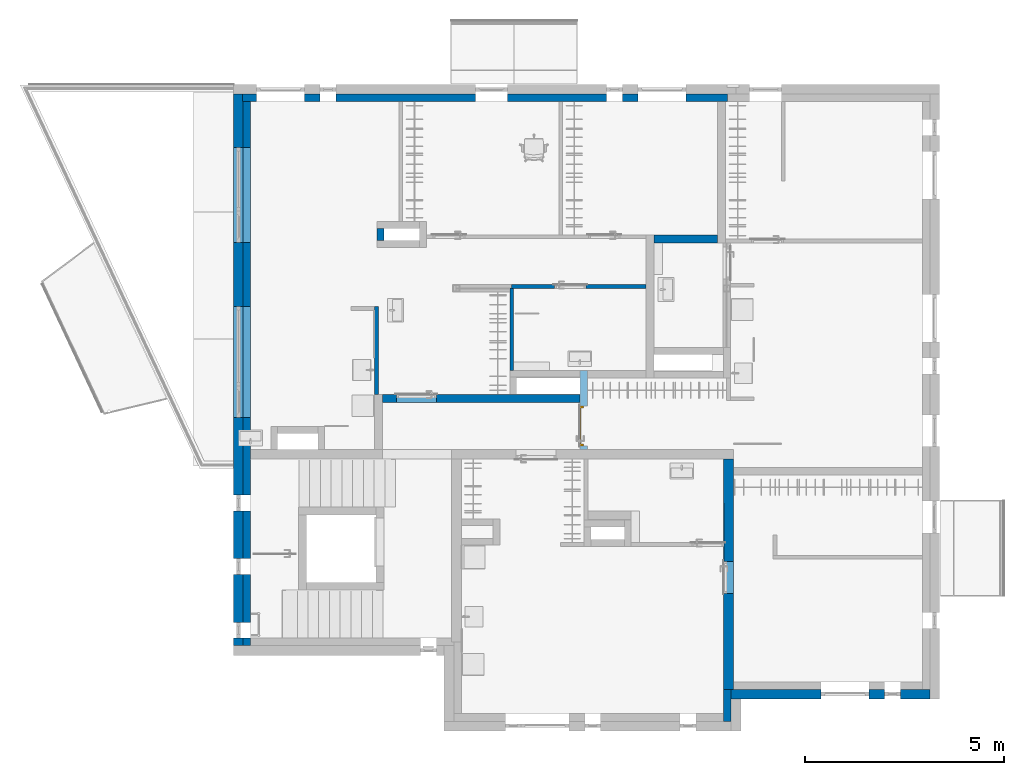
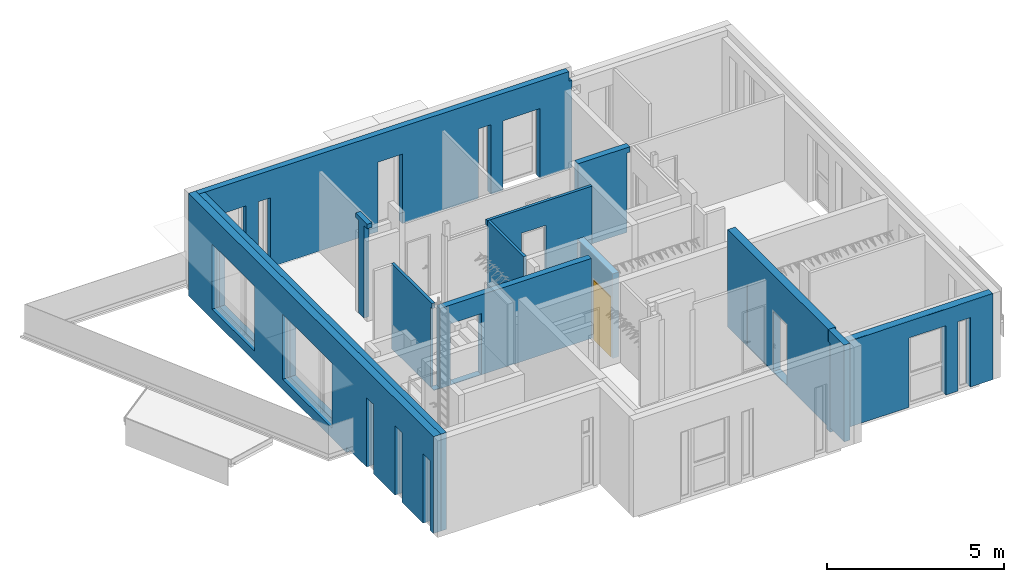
# One storey, part 9 of 42: 12 walls, 1 door, 1 opening, plus 1 element that does not belong to this part.
"""IFC2X3 building model written with IfcOpenShell, lengths in millimetres."""

from ifc_helpers import new_model, entity, si_unit, converted_unit, direction, frame, frame_2d, origin, place, context, subcontext, project, spatial, rectangle, extrude, faceted_brep, source, transform, mapped, material, layer, layer_set, layer_usage, type_object, type_shapes, element, fill, save


model = new_model("IFC2X3")

# Units and contexts
model_context = context("Model", 3, precision=0.01, world=origin(), true_north=direction((6.123233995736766e-17, 1.0)))
plan_context = context("Plan", 3, precision=0.01, world=origin(), true_north=direction((6.123233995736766e-17, 1.0)))
body_context = subcontext(model_context, "Body", "Model", "MODEL_VIEW")
ifc_project = project(units=[si_unit("LENGTHUNIT", "METRE", prefix="MILLI"), converted_unit("PLANEANGLEUNIT", "DEGREE", entity("IfcPlaneAngleMeasure", 0.017453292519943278), si_unit("PLANEANGLEUNIT", "RADIAN"), dimensions=[0, 0, 0, 0, 0, 0, 0]), si_unit("AREAUNIT", "SQUARE_METRE")], contexts=[model_context, plan_context])

# Site, building, storey
site_placement = place(None, origin())
site = spatial("IfcSite", under=ifc_project, at=site_placement, Name="Default", CompositionType="ELEMENT")
building_placement = place(site_placement, origin())
building = spatial("IfcBuilding", under=site, at=building_placement, CompositionType="ELEMENT")
storey_placement = place(building_placement, frame((0.0, 0.0, 9465.000076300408)))
storey = spatial("IfcBuildingStorey", under=building, at=storey_placement, Name="4K", CompositionType="ELEMENT", Elevation=9465.000076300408)

# Walls
ifc_material_1 = material(Name="_K. Väisviimistlus. Krohv. Valge")
ifc_layer_1 = layer(ifc_material_1, 5.0)
ifc_material_2 = material(Name="_K. Müüritis. Väikeplokk. Betoon-õõnesplokk")
ifc_layer_2 = layer(ifc_material_2, 190.00000000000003)
ifc_layer_3 = layer(ifc_material_1, 5.0)
ifc_layer_set_1 = layer_set([ifc_layer_1, ifc_layer_2, ifc_layer_3], Name="Basic Wall:SS-01. 190")
wall_type_1 = type_object("IfcWallType", Name="Basic Wall:SS-01. 190", PredefinedType="STANDARD", material=ifc_layer_set_1)
wall_1_placement = place(storey_placement, frame((-100.0, 1710.0, 0.0), z_axis=(0.0, 0.0, 1.0), x_axis=(0.0, 1.0, 0.0)))
element("IfcWall", 1, at=wall_1_placement, inside=storey, type_object=wall_type_1, Name="Basic Wall:SS-01. 190", ObjectType="Basic Wall:SS-01. 190", context=body_context, shape_type="Brep", body=[
    faceted_brep([(13690.0, -100.0, 3346.0), (190.0, -100.0, 3346.0), (0.0, -100.0, 3346.0), (0.0, -100.0, 0.0), (190.0, -100.0, 0.0), (190.0, -100.0, 2400.0), (590.0, -100.0, 2400.0), (590.0, -100.0, 0.0), (1790.0, -100.0, 0.0), (1790.0, -100.0, 2400.0), (2190.0, -100.0, 2400.0), (2190.0, -100.0, 0.0), (3390.0, -100.0, 0.0), (3390.0, -100.0, 2400.0), (3790.0, -100.0, 2400.0), (3790.0, -100.0, 0.0), (4694.999959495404, -100.0, 0.0), (13690.0, -100.0, 0.0), (8540.0, -100.0, 2400.0), (8540.0, -100.0, 150.0), (5740.0, -100.0, 150.0), (5740.0, -100.0, 2400.0), (12540.0, -100.0, 2400.0), (12540.0, -100.0, 150.0), (10140.0, -100.0, 150.0), (10140.0, -100.0, 2400.0), (0.0, 90.0, 0.0), (190.0, 90.0, 0.0), (13690.0, 90.0, 3346.0), (0.0, 90.0, 3346.0), (13690.0, 90.0, 0.0), (3790.0, 90.0, 0.0), (3790.0, 90.0, 2400.0), (3390.0, 90.0, 2400.0), (3390.0, 90.0, 0.0), (2190.0, 90.0, 0.0), (2190.0, 90.0, 2400.0), (1790.0, 90.0, 2400.0), (1790.0, 90.0, 0.0), (590.0, 90.0, 0.0), (590.0, 90.0, 2400.0), (190.0, 90.0, 2400.0), (8540.0, 90.0, 150.0), (8540.0, 90.0, 2400.0), (5740.0, 90.0, 2400.0), (5740.0, 90.0, 150.0), (12540.0, 90.0, 150.0), (12540.0, 90.0, 2400.0), (10140.0, 90.0, 2400.0), (10140.0, 90.0, 150.0)], [[[0, 1, 2, 3, 4, 5, 6, 7, 8, 9, 10, 11, 12, 13, 14, 15, 16, 17], [18, 19, 20, 21], [22, 23, 24, 25]], [[4, 3, 26, 27]], [[2, 1, 0, 28, 29]], [[0, 17, 30, 28]], [[30, 31, 32, 33, 34, 35, 36, 37, 38, 39, 40, 41, 27, 26, 29, 28], [42, 43, 44, 45], [46, 47, 48, 49]], [[7, 6, 40, 39]], [[6, 5, 41, 40]], [[5, 4, 27, 41]], [[11, 10, 36, 35]], [[10, 9, 37, 36]], [[9, 8, 38, 37]], [[15, 14, 32, 31]], [[14, 13, 33, 32]], [[13, 12, 34, 33]], [[19, 18, 43, 42]], [[23, 22, 47, 46]], [[22, 25, 48, 47]], [[25, 24, 49, 48]], [[24, 23, 46, 49]], [[18, 21, 44, 43]], [[21, 20, 45, 44]], [[20, 19, 42, 45]], [[3, 2, 29, 26]], [[8, 7, 39, 38]], [[12, 11, 35, 34]], [[17, 16, 15, 31, 30]]]),
])
wall_2_placement = place(storey_placement, frame((-200.0, 15500.0, 0.0)))
element("IfcWall", 2, at=wall_2_placement, inside=storey, type_object=wall_type_1, Name="Basic Wall:SS-01. 190", ObjectType="Basic Wall:SS-01. 190", context=body_context, shape_type="Brep", body=[
    faceted_brep([(12100.0, -100.0, 3346.0), (11550.0, -100.0, 3346.0), (11150.0, -100.0, 3346.0), (9950.0, -100.0, 3346.0), (9150.0, -100.0, 3346.0), (8430.0, -100.0, 3346.0), (6430.0, -100.0, 3346.0), (4825.0, -100.0, 3346.0), (4425.0, -100.0, 3346.0), (2750.0, -100.0, 3346.0), (2350.0, -100.0, 3346.0), (200.0, -100.0, 3346.0), (10.0, -100.0, 3346.0), (0.0, -100.0, 3346.0), (0.0, -100.0, 0.0), (10.0, -100.0, 0.0), (200.0, -100.0, 0.0), (350.0, -100.0, 0.0), (350.0, -100.0, 2400.0), (1550.0, -100.0, 2400.0), (1550.0, -100.0, 0.0), (1950.0, -100.0, 0.0), (1950.0, -100.0, 2400.0), (2350.0, -100.0, 2400.0), (2350.0, -100.0, 0.0), (5860.0, -100.0, 0.0), (5860.0, -100.0, 2400.0), (6660.0, -100.0, 2400.0), (6660.0, -100.0, 0.0), (9150.0, -100.0, 0.0), (9150.0, -100.0, 2400.0), (9550.0, -100.0, 2400.0), (9550.0, -100.0, 0.0), (9950.0, -100.0, 0.0), (9950.0, -100.0, 2400.0), (11150.0, -100.0, 2400.0), (11150.0, -100.0, 0.0), (12200.0, -100.0, 0.0), (12200.0, -100.0, 2480.0), (12180.0, -100.0, 2480.0), (12180.0, -100.0, 2780.0), (12200.0, -100.0, 2780.0), (12200.0, -100.0, 2970.000068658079), (12200.0, -100.0, 3014.999877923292), (12100.0, -100.0, 3014.999877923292), (0.0, 90.0, 0.0), (350.0, 90.0, 0.0), (12100.0, 90.0, 3346.0), (0.0, 90.0, 3346.0), (12200.0, 90.0, 0.0), (11150.0, 90.0, 0.0), (11150.0, 90.0, 2400.0), (9950.0, 90.0, 2400.0), (9950.0, 90.0, 0.0), (9550.0, 90.0, 0.0), (9550.0, 90.0, 2400.0), (9150.0, 90.0, 2400.0), (9150.0, 90.0, 0.0), (6660.0, 90.0, 0.0), (6660.0, 90.0, 2400.0), (5860.0, 90.0, 2400.0), (5860.0, 90.0, 0.0), (2350.0, 90.0, 0.0), (2350.0, 90.0, 2400.0), (1950.0, 90.0, 2400.0), (1950.0, 90.0, 0.0), (1550.0, 90.0, 0.0), (1550.0, 90.0, 2400.0), (350.0, 90.0, 2400.0), (12100.0, 90.0, 3014.999877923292), (12200.0, 90.0, 3014.999877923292), (12200.0, 90.0, 2970.000068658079), (12200.0, 90.0, 2780.0), (12180.0, 90.0, 2780.0), (12180.0, 90.0, 2480.0), (12200.0, 90.0, 2480.0)], [[[0, 1, 2, 3, 4, 5, 6, 7, 8, 9, 10, 11, 12, 13, 14, 15, 16, 17, 18, 19, 20, 21, 22, 23, 24, 25, 26, 27, 28, 29, 30, 31, 32, 33, 34, 35, 36, 37, 38, 39, 40, 41, 42, 43, 44]], [[17, 16, 15, 14, 45, 46]], [[13, 12, 11, 10, 9, 8, 7, 6, 5, 4, 3, 2, 1, 0, 47, 48]], [[14, 13, 48, 45]], [[49, 50, 51, 52, 53, 54, 55, 56, 57, 58, 59, 60, 61, 62, 63, 64, 65, 66, 67, 68, 46, 45, 48, 47, 69, 70, 71, 72, 73, 74, 75]], [[20, 19, 67, 66]], [[19, 18, 68, 67]], [[18, 17, 46, 68]], [[24, 23, 63, 62]], [[23, 22, 64, 63]], [[22, 21, 65, 64]], [[28, 27, 59, 58]], [[27, 26, 60, 59]], [[26, 25, 61, 60]], [[32, 31, 55, 54]], [[31, 30, 56, 55]], [[30, 29, 57, 56]], [[36, 35, 51, 50]], [[35, 34, 52, 51]], [[34, 33, 53, 52]], [[39, 38, 75, 74]], [[41, 40, 73, 72]], [[40, 39, 74, 73]], [[38, 37, 49, 75]], [[44, 43, 70, 69]], [[0, 44, 69, 47]], [[43, 42, 41, 72, 71, 70]], [[21, 20, 66, 65]], [[25, 24, 62, 61]], [[29, 28, 58, 57]], [[33, 32, 54, 53]], [[37, 36, 50, 49]]]),
])
wall_3_placement = place(storey_placement, frame((3120.0, 7934.999959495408, -20.0)))
element("IfcWall", 3, at=wall_3_placement, inside=storey, type_object=wall_type_1, Name="Basic Wall:SS-01. 190", ObjectType="Basic Wall:SS-01. 190", context=body_context, shape_type="Brep", body=[
    faceted_brep([(5160.0, -100.0, 2769.9998779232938), (200.0, -100.0, 2769.9998779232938), (200.0, -100.0, 20.0), (0.0, -100.0, 20.0), (0.0, -100.0, 0.0), (5160.0, -100.0, 0.0), (5160.0, -100.0, 19.99992369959), (1550.0, -100.0, 2120.0), (1550.0, -100.0, 20.0), (550.0, -100.0, 20.0), (550.0, -100.0, 2120.0), (200.0, 100.0, 2769.9998779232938), (5160.0, 100.0, 2769.9998779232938), (5160.0, 100.0, 0.0), (92.0, 100.0, 0.0), (0.0, 100.0, 0.0), (0.0, 100.0, 20.0), (200.0, 100.0, 20.0), (1550.0, 100.0, 20.0), (1550.0, 100.0, 2120.0), (550.0, 100.0, 2120.0), (550.0, 100.0, 20.0), (200.0, 0.0, 2769.9998779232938)], [[[0, 1, 2, 3, 4, 5, 6], [7, 8, 9, 10]], [[11, 12, 13, 14, 15, 16, 17], [18, 19, 20, 21]], [[1, 0, 12, 11, 22]], [[3, 16, 15, 4]], [[2, 1, 22, 11, 17]], [[8, 7, 19, 18]], [[9, 8, 18, 21]], [[10, 9, 21, 20]], [[7, 10, 20, 19]], [[17, 16, 3, 2]], [[12, 0, 6, 5, 13]], [[5, 4, 15, 14, 13]]]),
])

# Wall, opening, door
ifc_layer_usage = layer_usage(ifc_layer_set_1, "AXIS2", "NEGATIVE", 100.00000000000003)
wall_4_placement = place(storey_placement, frame((8380.0, 6644.999959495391, 0.0), z_axis=(0.0, 0.0, 1.0), x_axis=(0.0, 1.0, 0.0)))
wall_4 = element("IfcWallStandardCase", 4, at=wall_4_placement, inside=storey, type_object=wall_type_1, material=ifc_layer_usage, Name="Basic Wall:SS-01. 190", ObjectType="Basic Wall:SS-01. 190", context=body_context, shape_type="SweptSolid", body=[
    extrude(rectangle(XDim=1995.0000405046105, YDim=200.0, at=frame_2d((997.5000202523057, -3.623767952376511e-13), x_axis=(1.0, 0.0))), origin(), (0.0, 0.0, 1.0), 2925.999923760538),
])
opening_placement = place(wall_4_placement, frame((-6644.999959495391, 8380.0, 0.0), z_axis=(0.0, 0.0, 1.0), x_axis=(0.0, -1.0, 0.0)))
opening = element("IfcOpeningElement", 5, at=opening_placement, cuts=wall_4, Name="Basic Wall:SS-01. 190", ObjectType="Opening", context=body_context, shape_type="Brep", body=[
    faceted_brep([(9372.0, 7739.999959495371, 2100.0), (9372.0, 6739.999959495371, 2100.0), (9372.0, 6739.999959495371, 0.0), (9372.0, 7739.999959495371, 0.0), (7280.0, 7739.999959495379, 0.0), (7280.0, 7739.9999594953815, 2100.0), (7280.0, 6739.999959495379, 0.0), (7280.0, 6739.999959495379, 2100.0)], [[[0, 1, 2, 3]], [[3, 4, 5, 0]], [[2, 6, 4, 3]], [[1, 7, 6, 2]], [[5, 7, 1, 0]], [[7, 5, 4, 6]]]),
])
ifc_material_3 = material(Name="_K. Puit. Peitsitud ja lakitud")
door_style = type_object("IfcDoorStyle", Name="HR_Generic_Hinged_Single:Default. Manteluks lävepakuta. 1000 x 2100 mm. Left", ConstructionType="NOTDEFINED", OperationType="NOTDEFINED", ParameterTakesPrecedence=False, Sizeable=False, material=ifc_material_3)
shared_shape = source(origin(), body_context, "Body", "Brep", [
    faceted_brep([(37.0, -1030.0, 2060.0), (37.0, -1030.0, 10.0), (963.0, -1030.0, 10.0), (963.0, -1030.0, 2060.0), (27.0, -990.0, 10.0), (27.0, -990.0, 2070.0), (973.0, -990.0, 2070.0), (973.0, -990.0, 10.0), (37.0, -1000.0, 2060.0), (37.0, -1000.0, 10.0), (27.0, -1000.0, 10.0), (973.0, -1000.0, 10.0), (963.0, -1000.0, 10.0), (963.0, -1000.0, 2060.0), (27.0, -1000.0, 2070.0), (973.0, -1000.0, 2070.0)], [[[0, 1, 2, 3]], [[4, 5, 6, 7]], [[1, 0, 8, 9]], [[2, 1, 9, 10, 4, 7, 11, 12]], [[3, 2, 12, 13]], [[0, 3, 13, 8]], [[14, 10, 9, 8, 13, 12, 11, 15]], [[6, 5, 14, 15]], [[7, 6, 15, 11]], [[5, 4, 10, 14]]]),
    faceted_brep([(1000.0, -1092.0, 0.0), (950.0, -1092.0, 0.0), (950.0, -1030.0, 0.0), (965.0, -1030.0, 0.0), (965.0, -1000.0, 0.0), (1000.0, -1000.0, 0.0), (1000.0, -1092.0, 2100.0), (0.0, -1092.0, 2100.0), (0.0, -1092.0, 0.0), (50.0, -1092.0, 0.0), (50.0, -1092.0, 2050.0), (950.0, -1092.0, 2050.0), (950.0, -1030.0, 2050.0), (35.0, -1030.0, 2065.0), (965.0, -1030.0, 2065.0), (50.0, -1030.0, 2050.0), (50.0, -1030.0, 0.0), (35.0, -1030.0, 0.0), (965.0, -1000.0, 2065.0), (0.0, -1000.0, 0.0), (0.0, -1000.0, 2100.0), (1000.0, -1000.0, 2100.0), (35.0, -1000.0, 2065.0), (35.0, -1000.0, 0.0)], [[[0, 1, 2, 3, 4, 5]], [[1, 0, 6, 7, 8, 9, 10, 11]], [[1, 11, 12, 2]], [[13, 14, 3, 2, 12, 15, 16, 17]], [[3, 14, 18, 4]], [[19, 20, 21, 5, 4, 18, 22, 23]], [[0, 5, 21, 6]], [[8, 19, 23, 17, 16, 9]], [[19, 8, 7, 20]], [[13, 17, 23, 22]], [[10, 9, 16, 15]], [[7, 6, 21, 20]], [[11, 10, 15, 12]], [[14, 13, 22, 18]]]),
])
type_shapes(door_style, [shared_shape])
door_placement = place(opening_placement, frame((7280.0, 6739.999959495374, 0.0), z_axis=(0.0, 0.0, 1.0), x_axis=(0.0, 1.0, 0.0)))
door = element("IfcDoor", 6, at=door_placement, inside=storey, type_object=door_style, material=ifc_material_3, Name="HR_Generic_Hinged_Single:Default. Manteluks lävepakuta. 1000 x 2100 mm. Left", ObjectType="HR_Generic_Hinged_Single:Default. Manteluks lävepakuta. 1000 x 2100 mm. Left", OverallHeight=2130.000000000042, OverallWidth=1060.0000000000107, context=body_context, shape_type="MappedRepresentation", body=[
    mapped(shared_shape, transform((0.0, 0.0, 0.0), scale=1.0)),
])
fill(opening, door)

# Walls
wall_5_placement = place(storey_placement, frame((10150.0, 11946.0, 0.0)))
element("IfcWall", 7, at=wall_5_placement, inside=storey, type_object=wall_type_1, Name="Basic Wall:SS-01. 190", ObjectType="Basic Wall:SS-01. 190", context=body_context, shape_type="Brep", body=[
    faceted_brep([(0.0, -100.0, 2925.999923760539), (0.0, -100.0, 0.0), (1600.0, -100.0, 0.0), (1600.0, -100.0, 2739.999877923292), (1700.0, -100.0, 2739.999877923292), (1700.0, -100.0, 2925.999923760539), (0.0, 100.0, 0.0), (0.0, 100.0, 2925.999923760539), (1700.0, 100.0, 2925.999923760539), (1700.0, 100.0, 2739.999877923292), (1600.0, 100.0, 2739.999877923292), (1600.0, 100.0, 0.0), (1700.0, -8.0, 2925.999923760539), (1700.0, -8.0, 2739.999877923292)], [[[0, 1, 2, 3, 4, 5]], [[6, 7, 8, 9, 10, 11]], [[2, 1, 6, 11]], [[0, 5, 12, 8, 7]], [[0, 7, 6, 1]], [[5, 4, 13, 9, 8, 12]], [[3, 2, 11, 10]], [[9, 13, 4, 3, 10]]]),
])
ifc_layer_4 = layer(ifc_material_2, 190.00000000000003)
ifc_layer_set_2 = layer_set([ifc_layer_4], Name="Basic Wall:Columbia 190mm")
wall_type_2 = type_object("IfcWallType", Name="Basic Wall:Columbia 190mm", PredefinedType="STANDARD", material=ifc_layer_set_2)
wall_6_placement = place(storey_placement, frame((11995.0, 705.0, 0.0), z_axis=(0.0, 0.0, 1.0), x_axis=(0.0, -1.0, 0.0)))
element("IfcWall", 8, at=wall_6_placement, inside=storey, type_object=wall_type_2, Name="Basic Wall:Columbia 190mm", ObjectType="Basic Wall:Columbia 190mm", context=body_context, shape_type="Brep", body=[
    faceted_brep([(95.0, -95.0, 0.0), (705.0, -95.0, 0.0), (895.0, -95.0, 0.0), (895.0, -95.0, 3346.0), (705.0, -95.0, 3346.0), (0.0, -95.0, 3346.0), (0.0, -95.0, 2925.999923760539), (95.0, -95.0, 2925.999923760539), (95.0, 95.0, 0.0), (95.0, 95.0, 2925.999923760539), (0.0, 95.0, 2925.999923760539), (0.0, 95.0, 3346.0), (895.0, 95.0, 3346.0), (895.0, 95.0, 0.0), (335.0, 95.0, 0.0)], [[[0, 1, 2, 3, 4, 5, 6, 7]], [[8, 9, 10, 11, 12, 13, 14]], [[2, 1, 0, 8, 14, 13]], [[5, 4, 3, 12, 11]], [[2, 13, 12, 3]], [[6, 5, 11, 10]], [[6, 10, 9, 7]], [[0, 7, 9, 8]]]),
])
ifc_layer_5 = layer(ifc_material_1, 5.0)
ifc_layer_6 = layer(ifc_material_2, 240.0)
ifc_layer_7 = layer(ifc_material_1, 5.0)
ifc_layer_set_3 = layer_set([ifc_layer_5, ifc_layer_6, ifc_layer_7], Name="Basic Wall:SS-01.240")
wall_type_3 = type_object("IfcWallType", Name="Basic Wall:SS-01.240", PredefinedType="STANDARD", material=ifc_layer_set_3)
wall_7_placement = place(storey_placement, frame((12019.993534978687, 610.0, -155.0), z_axis=(0.0, 0.0, 1.0), x_axis=(0.0, 1.0, 0.0)))
element("IfcWall", 9, at=wall_7_placement, inside=storey, type_object=wall_type_3, Name="Basic Wall:SS-01.240", ObjectType="Basic Wall:SS-01.240", context=body_context, shape_type="Brep", body=[
    faceted_brep([(3220.0, -125.0, 2255.0), (3220.0, -125.0, 155.0), (2420.0, -125.0, 155.0), (2420.0, -125.0, 2255.0), (5794.99995949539, -125.0, 3501.0), (5540.0, -125.0, 3501.0), (4740.0, -125.0, 3501.0), (2890.0, -125.0, 3501.0), (1290.0, -125.0, 3501.0), (95.0, -125.0, 3501.0), (95.0, -125.0, 3130.000068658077), (95.0, -125.0, 3080.9999237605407), (0.0, -125.0, 3080.9999237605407), (0.0, -125.0, 154.99992369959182), (0.0, -125.0, 0.0), (190.0, -125.0, 0.0), (190.0, -125.0, 135.0), (5794.99995949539, -125.0, 135.0), (5794.99995949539, -125.0, 2904.999923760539), (5794.99995949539, -125.0, 3130.000068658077), (95.0, 125.0, 3501.0), (5794.999959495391, 125.0, 3501.0), (5794.999959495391, 125.0, 135.0), (3692.0, 125.0, 135.0), (3600.0, 125.0, 135.0), (0.0, 125.0, 135.0), (0.0, 125.0, 3080.9999237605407), (95.0, 125.0, 3080.9999237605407), (2420.0, 125.0, 2255.0), (2420.0, 125.0, 155.0), (3600.0, 125.0, 155.0), (3692.0, 125.0, 155.0), (4692.0, 125.0, 155.0), (4692.0, 125.0, 2255.0), (3692.0, 125.0, 2255.0), (3600.0, 125.0, 2255.0), (0.0, 119.99353497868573, 0.0), (190.0, 119.99353497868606, 0.0), (5794.99995949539, -70.00646502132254, 3501.0), (5794.999959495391, 119.99353497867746, 3501.0), (95.0, 119.9935349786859, 3501.0), (95.0, -70.0064650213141, 3501.0), (3220.0, 115.0, 2255.0), (3220.0, 115.0, 155.0), (4692.0, 115.0, 2255.0), (4692.0, 115.0, 155.0), (190.0, 119.99353497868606, 135.0), (0.0, 119.99353497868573, 135.0), (95.0, 119.9935349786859, 3080.9999237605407), (95.0, -70.0064650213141, 3080.9999237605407), (0.0, 119.99353497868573, 3080.9999237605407), (0.0, -70.00646502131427, 3080.9999237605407)], [[[0, 1, 2, 3], [4, 5, 6, 7, 8, 9, 10, 11, 12, 13, 14, 15, 16, 17, 18, 19]], [[20, 21, 22, 23, 24, 25, 26, 27], [28, 29, 30, 31, 32, 33, 34, 35]], [[15, 14, 36, 37]], [[9, 8, 7, 6, 5, 4, 38, 39, 21, 20, 40, 41]], [[21, 39, 38, 4, 19, 18, 17, 22]], [[1, 0, 42, 43]], [[2, 29, 28, 3]], [[44, 45, 43, 42]], [[29, 2, 1, 43, 45, 32, 31, 30]], [[3, 28, 35, 34, 33, 44, 42, 0]], [[45, 44, 33, 32]], [[16, 46, 47, 25, 24, 23, 22, 17]], [[46, 16, 15, 37]], [[47, 46, 37, 36]], [[9, 41, 40, 20, 27, 48, 49, 11, 10]], [[11, 49, 48, 27, 26, 50, 51, 12]], [[12, 51, 50, 26, 25, 47, 36, 14, 13]]], outer=[[False, True], [True, False], [True], [True], [True], [True], [True], [True], [True], [True], [True], [True], [True], [True], [True], [True], [True]]),
])
ifc_layer_8 = layer(ifc_material_1, 10.0)
ifc_material_4 = material(Name="_K. Soojustus. EPS Silver")
ifc_layer_9 = layer(ifc_material_4, 230.0)
ifc_layer_set_4 = layer_set([ifc_layer_8, ifc_layer_9], Name="Basic Wall:VS-01")
wall_type_4 = type_object("IfcWallType", Name="Basic Wall:VS-01", PredefinedType="STANDARD", material=ifc_layer_set_4)
wall_8_placement = place(storey_placement, frame((17090.0, 490.0, 0.0), z_axis=(0.0, 0.0, 1.0), x_axis=(-1.0, 0.0, 0.0)))
element("IfcWall", 10, at=wall_8_placement, inside=storey, type_object=wall_type_4, Name="Basic Wall:VS-01", ObjectType="Basic Wall:VS-01", context=body_context, shape_type="Brep", body=[
    faceted_brep([(5000.0, -120.0, 2974.9999237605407), (0.0, -120.0, 2974.9999237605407), (0.0, -120.0, 2750.0000686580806), (0.0, -120.0, 0.0), (190.0, -120.0, 0.0), (740.0, -120.0, 0.0), (740.0, -120.0, 2400.0), (1140.0, -120.0, 2400.0), (1140.0, -120.0, 0.0), (1540.0, -120.0, 0.0), (1540.0, -120.0, 2400.0), (2740.0, -120.0, 2400.0), (2740.0, -120.0, 0.0), (4945.006465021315, -120.0, 0.0), (5000.0, -120.0, 0.0), (5000.0, -120.0, 2925.9999237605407), (5000.0, 120.0, 2974.9999237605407), (5000.0, 120.0, 0.0), (4760.0, 120.0, 0.0), (2740.0, 120.0, 0.0), (2740.0, 120.0, 2400.0), (1540.0, 120.0, 2400.0), (1540.0, 120.0, 0.0), (1140.0, 120.0, 0.0), (1140.0, 120.0, 2400.0), (740.0, 120.0, 2400.0), (740.0, 120.0, 0.0), (0.0, 120.0, 0.0), (0.0, 120.0, 2970.374091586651), (4760.0, 120.0, 2970.374091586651), (4760.0, 120.0, 2974.9999237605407), (740.0, 40.0, 0.0), (740.0, 30.0, 0.0), (4760.0, 110.0, 2974.9999237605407), (0.0, 110.0, 2974.9999237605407), (0.0, 110.0, 2970.374091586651), (1140.0, 40.0, 0.0), (1140.0, 30.0, 0.0), (2740.0, 40.0, 0.0), (2740.0, 30.0, 0.0), (1540.0, 30.0, 0.0), (1540.0, 40.0, 0.0), (4760.0, 110.0, 2970.374091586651)], [[[0, 1, 2, 3, 4, 5, 6, 7, 8, 9, 10, 11, 12, 13, 14, 15]], [[16, 17, 18, 19, 20, 21, 22, 23, 24, 25, 26, 27, 28, 29, 30]], [[3, 27, 26, 31, 32, 5, 4]], [[1, 0, 16, 30, 33, 34]], [[3, 2, 1, 34, 35, 28, 27]], [[0, 15, 14, 17, 16]], [[7, 24, 23, 36, 37, 8]], [[24, 7, 6, 25]], [[25, 6, 5, 32, 31, 26]], [[11, 20, 19, 38, 39, 12]], [[20, 11, 10, 21]], [[21, 10, 9, 40, 41, 22]], [[33, 42, 35, 34]], [[42, 29, 28, 35]], [[29, 42, 33, 30]], [[8, 37, 36, 23, 22, 41, 40, 9]], [[17, 14, 13, 12, 39, 38, 19, 18]]]),
])
wall_9_placement = place(storey_placement, frame((-310.0, 1710.0, -195.00027466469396), z_axis=(0.0, 0.0, 1.0), x_axis=(0.0, 1.0, 0.0)))
element("IfcWall", 11, at=wall_9_placement, inside=storey, type_object=wall_type_4, Name="Basic Wall:VS-01", ObjectType="Basic Wall:VS-01", context=body_context, shape_type="Brep", body=[
    faceted_brep([(8540.0, -120.0, 2595.0002746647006), (8540.0, -120.0, 345.0002746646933), (5740.0, -120.0, 345.00027466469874), (5740.0, -120.0, 2595.000274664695), (12540.0, -120.0, 2595.0002746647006), (12540.0, -120.0, 345.0002746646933), (10140.0, -120.0, 345.00027466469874), (10140.0, -120.0, 2595.000274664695), (13880.0, -120.0, 3541.0002746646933), (13690.0, -120.0, 3541.0002746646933), (12540.0, -120.0, 3541.0002746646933), (10540.0, -120.0, 3541.0002746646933), (8540.0, -120.0, 3541.0002746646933), (6140.0, -120.0, 3541.0002746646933), (4480.0, -120.0, 3541.0002746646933), (4080.0, -120.0, 3541.0002746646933), (2880.0, -120.0, 3541.0002746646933), (2480.0, -120.0, 3541.0002746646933), (1280.0, -120.0, 3541.0002746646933), (880.0, -120.0, 3541.0002746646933), (0.0, -120.0, 3541.0002746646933), (0.0, -120.0, 195.0001983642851), (190.0, -120.0, 195.00027466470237), (190.0, -120.0, 2595.000274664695), (590.0, -120.0, 2595.0002746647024), (590.0, -120.0, 195.0001983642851), (1790.0, -120.0, 195.00027466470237), (1790.0, -120.0, 2595.000274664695), (2190.0, -120.0, 2595.0002746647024), (2190.0, -120.0, 195.0001983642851), (3390.0, -120.0, 195.00027466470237), (3390.0, -120.0, 2595.000274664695), (3790.0, -120.0, 2595.0002746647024), (3790.0, -120.0, 195.0001983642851), (4934.999959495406, -120.0, 195.0001983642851), (4934.999959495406, -120.0, 0.0), (13880.0, -120.0, 0.0), (8540.0, 120.0, 345.00027466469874), (8540.0, 120.0, 2595.000274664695), (5740.0, 120.0, 2595.0002746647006), (5740.0, 120.0, 345.0002746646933), (12540.0, 120.0, 345.00027466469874), (12540.0, 120.0, 2595.000274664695), (10140.0, 120.0, 2595.0002746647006), (10140.0, 120.0, 345.0002746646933), (0.0, 120.0, 3541.0002746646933), (880.0, 120.0, 3541.0002746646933), (1280.0, 120.0, 3541.0002746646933), (2480.0, 120.0, 3541.0002746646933), (2880.0, 120.0, 3541.0002746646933), (4080.0, 120.0, 3541.0002746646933), (4480.0, 120.0, 3541.0002746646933), (6140.0, 120.0, 3541.0002746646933), (8540.0, 120.0, 3541.0002746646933), (10540.0, 120.0, 3541.0002746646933), (12540.0, 120.0, 3541.0002746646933), (13880.0, 120.0, 3541.0002746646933), (13880.0, 120.0, 195.0002746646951), (13880.0, 120.0, 0.0), (4934.999959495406, 120.0, 0.0), (4934.999959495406, 120.0, 195.0001983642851), (4694.999959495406, 120.0, 195.0001983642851), (3790.0, 120.0, 195.00027466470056), (3790.0, 120.0, 2595.000274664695), (3390.0, 120.0, 2595.0002746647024), (3390.0, 120.0, 195.0001983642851), (2190.0, 120.0, 195.00027466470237), (2190.0, 120.0, 2595.000274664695), (1790.0, 120.0, 2595.0002746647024), (1790.0, 120.0, 195.0001983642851), (590.0, 120.0, 195.00027466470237), (590.0, 120.0, 2595.000274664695), (190.0, 120.0, 2595.0002746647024), (190.0, 120.0, 195.0001983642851), (0.0, 120.0, 195.0001983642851), (0.0, -110.0, 195.0001983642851)], [[[0, 1, 2, 3], [4, 5, 6, 7], [8, 9, 10, 11, 12, 13, 14, 15, 16, 17, 18, 19, 20, 21, 22, 23, 24, 25, 26, 27, 28, 29, 30, 31, 32, 33, 34, 35, 36]], [[37, 38, 39, 40], [41, 42, 43, 44], [45, 46, 47, 48, 49, 50, 51, 52, 53, 54, 55, 56, 57, 58, 59, 60, 61, 62, 63, 64, 65, 66, 67, 68, 69, 70, 71, 72, 73, 74]], [[58, 36, 35, 59]], [[20, 19, 18, 17, 16, 15, 14, 13, 12, 11, 10, 9, 8, 56, 55, 54, 53, 52, 51, 50, 49, 48, 47, 46, 45]], [[30, 29, 66, 65]], [[24, 71, 70, 25]], [[71, 24, 23, 72]], [[72, 23, 22, 73]], [[28, 67, 66, 29]], [[67, 28, 27, 68]], [[68, 27, 26, 69]], [[32, 63, 62, 33]], [[63, 32, 31, 64]], [[64, 31, 30, 65]], [[0, 38, 37, 1]], [[4, 42, 41, 5]], [[36, 58, 57, 56, 8]], [[42, 4, 7, 43]], [[43, 7, 6, 44]], [[44, 6, 5, 41]], [[38, 0, 3, 39]], [[39, 3, 2, 40]], [[40, 2, 1, 37]], [[20, 45, 74, 75, 21]], [[34, 60, 59, 35]], [[26, 25, 70, 69]], [[22, 21, 75, 74, 73]], [[60, 34, 33, 62, 61]]], outer=[[False, False, True], [False, False, True], [True], [True], [True], [True], [True], [True], [True], [True], [True], [True], [True], [True], [True], [True], [True], [True], [True], [True], [True], [True], [True], [True], [True], [True], [True], [True]]),
])
ifc_material_5 = material(Name="_K. Ehitusplaat. Kipsplaat. Erikõva")
ifc_layer_10 = layer(ifc_material_5, 13.000000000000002)
ifc_material_6 = material(Name="_K. Soojustus. Mineraalvill")
ifc_layer_11 = layer(ifc_material_6, 66.0)
ifc_layer_12 = layer(ifc_material_5, 13.000000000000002)
ifc_layer_set_5 = layer_set([ifc_layer_10, ifc_layer_11, ifc_layer_12], Name="Basic Wall:SS-401")
wall_type_5 = type_object("IfcWallType", Name="Basic Wall:SS-401", PredefinedType="STANDARD", material=ifc_layer_set_5)
wall_10_placement = place(storey_placement, frame((6566.0, 8640.0, -20.0), z_axis=(0.0, 0.0, 1.0), x_axis=(0.0, 1.0, 0.0)))
element("IfcWall", 12, at=wall_10_placement, inside=storey, type_object=wall_type_5, Name="Basic Wall:SS-401", ObjectType="Basic Wall:SS-401", context=body_context, shape_type="Brep", body=[
    faceted_brep([(0.0, -46.0, 0.0), (2061.0, -46.0, 0.0), (2061.0, -46.0, 2769.9998779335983), (2061.0, -46.0, 2946.0), (0.0, -46.0, 2946.0), (2074.0, 46.0, 0.0), (2046.0, 46.0, 0.0), (1967.0, 46.0, 0.0), (0.0, 46.0, 0.0), (0.0, 46.0, 20.0), (0.0, 46.0, 2946.0), (2061.0, 46.0, 2946.0), (2061.0, 46.0, 2769.9998779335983), (2074.0, 46.0, 2769.9998779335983), (2074.0, 0.0, 0.0), (2061.0, 0.0, 0.0), (2074.0, 0.0, 2769.9998779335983), (2061.0, 0.0, 2769.9998779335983)], [[[0, 1, 2, 3, 4]], [[5, 6, 7, 8, 9, 10, 11, 12, 13]], [[1, 0, 8, 7, 6, 5, 14, 15]], [[4, 3, 11, 10]], [[0, 4, 10, 9, 8]], [[15, 14, 16, 17]], [[14, 5, 13, 16]], [[13, 12, 17, 16]], [[1, 15, 17, 2]], [[11, 3, 2, 17, 12]]]),
])
wall_11_placement = place(storey_placement, frame((6520.0, 10747.0, -20.0)))
element("IfcWall", 13, at=wall_11_placement, inside=storey, type_object=wall_type_5, Name="Basic Wall:SS-401", ObjectType="Basic Wall:SS-401", context=body_context, shape_type="Brep", body=[
    faceted_brep([(46.0, -46.0, 0.0), (92.0, -46.0, 0.0), (3430.0, -46.0, 0.0), (3430.0, -46.0, 2946.0), (92.0, -46.0, 2946.0), (0.0, -46.0, 2946.0), (0.0, -46.0, 2769.9998779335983), (46.0, -46.0, 2769.9998779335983), (1920.0, -46.0, 2120.0), (1920.0, -46.0, 20.0), (1120.0, -46.0, 20.0), (1120.0, -46.0, 2120.0), (3430.0, 46.0, 0.0), (46.0, 46.0, 0.0), (46.0, 46.0, 2769.9998779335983), (0.0, 46.0, 2769.9998779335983), (0.0, 46.0, 2946.0), (3430.0, 46.0, 2946.0), (1920.0, 46.0, 20.0), (1920.0, 46.0, 2120.0), (1120.0, 46.0, 2120.0), (1120.0, 46.0, 20.0), (46.0, -33.0, 0.0), (46.0, -33.0, 2769.9998779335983), (0.0, -33.0, 2769.9998779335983)], [[[0, 1, 2, 3, 4, 5, 6, 7], [8, 9, 10, 11]], [[12, 13, 14, 15, 16, 17], [18, 19, 20, 21]], [[2, 1, 0, 22, 13, 12]], [[5, 4, 3, 17, 16]], [[3, 2, 12, 17]], [[8, 19, 18, 9]], [[9, 18, 21, 10]], [[10, 21, 20, 11]], [[19, 8, 11, 20]], [[13, 22, 0, 7, 23, 14]], [[15, 14, 23, 7, 6, 24]], [[6, 5, 16, 15, 24]]]),
])
wall_12_placement = place(storey_placement, frame((3166.0, 7934.999959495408, -20.0), z_axis=(0.0, 0.0, 1.0), x_axis=(0.0, 1.0, 0.0)))
element("IfcWall", 14, at=wall_12_placement, inside=storey, type_object=wall_type_5, Name="Basic Wall:SS-401", ObjectType="Basic Wall:SS-401", context=body_context, shape_type="Brep", body=[
    faceted_brep([(100.0, -46.0, 0.0), (2305.5000000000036, -46.0, 0.0), (2305.5000000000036, -46.0, 2946.0), (0.0, -46.0, 2946.0), (0.0, -46.0, 2769.9998779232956), (100.0, -46.0, 2769.9998779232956), (100.0, 46.0, 0.0), (100.0, 46.0, 20.0), (100.0, 46.0, 2769.9998779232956), (0.0, 46.0, 2769.9998779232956), (0.0, 46.0, 2946.0), (2213.5000000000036, 46.0, 2946.0), (2305.5000000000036, 46.0, 2946.0), (2305.5000000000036, 46.0, 0.0), (2213.5000000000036, 46.0, 0.0)], [[[0, 1, 2, 3, 4, 5]], [[6, 7, 8, 9, 10, 11, 12, 13, 14]], [[1, 0, 6, 14, 13]], [[3, 2, 12, 11, 10]], [[2, 1, 13, 12]], [[4, 3, 10, 9]], [[4, 9, 8, 5]], [[0, 5, 8, 7, 6]]]),
])
ifc_layer_13 = layer(ifc_material_1, 10.0)
ifc_material_7 = material(Name="_K. Müüritis. Väikeplokk. Kergkruusplokk")
ifc_layer_14 = layer(ifc_material_7, 150.0)
ifc_layer_15 = layer(ifc_material_1, 10.0)
ifc_layer_set_6 = layer_set([ifc_layer_13, ifc_layer_14, ifc_layer_15], Name="Basic Wall:SS-03. Šahti sein")
wall_type_6 = type_object("IfcWallType", Name="Basic Wall:SS-03. Šahti sein", PredefinedType="STANDARD", material=ifc_layer_set_6)
wall_13_placement = place(storey_placement, frame((3265.0, 12380.0, 0.0), z_axis=(0.0, 0.0, 1.0), x_axis=(0.0, -1.0, 0.0)))
element("IfcWall", 15, at=wall_13_placement, inside=storey, type_object=wall_type_6, Name="Basic Wall:SS-03. Šahti sein", ObjectType="Basic Wall:SS-03. Šahti sein", context=body_context, shape_type="Brep", body=[
    faceted_brep([(170.0, -85.0, 0.0), (480.0, -85.0, 0.0), (480.0, -85.0, 2749.999923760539), (480.0, -85.0, 3190.999923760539), (650.0, -85.0, 3190.999923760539), (650.0, -85.0, 3325.999923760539), (650.0, -85.0, 3346.0), (480.0, -85.0, 3346.0), (170.0, -85.0, 3346.0), (0.0, -85.0, 3346.0), (0.0, -85.0, 3190.999923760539), (170.0, -85.0, 3190.999923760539), (170.0, -85.0, 2749.999923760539), (170.0, 85.0, 0.0), (170.0, 85.0, 3190.999923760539), (0.0, 85.0, 3190.999923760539), (0.0, 85.0, 3325.999923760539), (0.0, 85.0, 3346.0), (170.0, 85.0, 3346.0), (480.0, 85.0, 3346.0), (650.0, 85.0, 3346.0), (650.0, 85.0, 3325.999923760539), (650.0, 85.0, 3190.999923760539), (480.0, 85.0, 3190.999923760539), (480.0, 85.0, 0.0)], [[[0, 1, 2, 3, 4, 5, 6, 7, 8, 9, 10, 11, 12]], [[13, 14, 15, 16, 17, 18, 19, 20, 21, 22, 23, 24]], [[1, 0, 13, 24]], [[9, 8, 7, 6, 20, 19, 18, 17]], [[10, 15, 14, 11]], [[0, 12, 11, 14, 13]], [[10, 9, 17, 16, 15]], [[22, 4, 3, 23]], [[3, 2, 1, 24, 23]], [[4, 22, 21, 20, 6, 5]]]),
])

save(model, "model.ifc")
